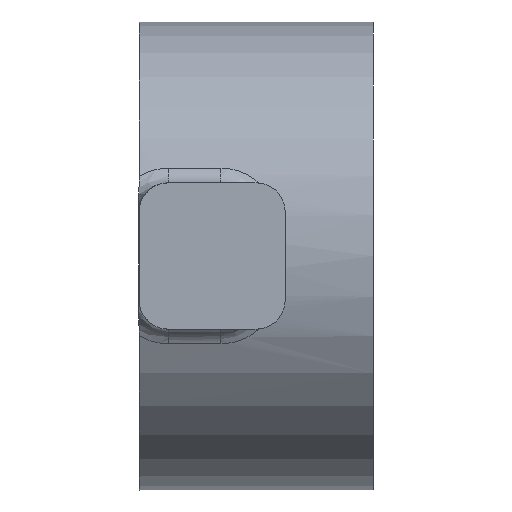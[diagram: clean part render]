
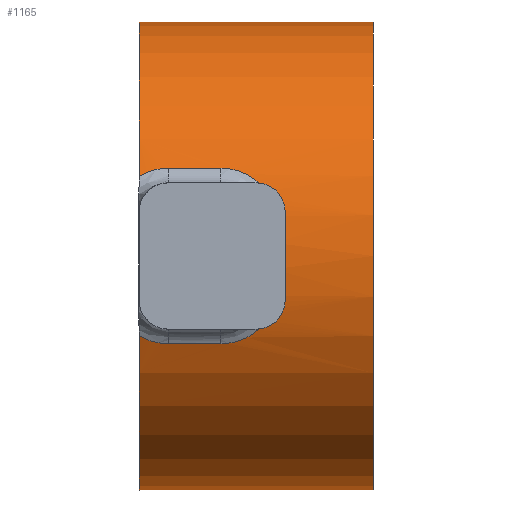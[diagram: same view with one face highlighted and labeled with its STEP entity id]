
A CAD part, front view. The second image highlights one B-rep face of the part: STEP entity #1165.
In plain terms, the highlighted cylindrical face has radius 8 mm (diameter 16 mm), a partial arc.
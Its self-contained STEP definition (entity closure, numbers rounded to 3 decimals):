
#855=CARTESIAN_POINT('Vertex',(8.,0.,8.)) ;
#869=CARTESIAN_POINT('Vertex',(0.,0.,8.)) ;
#872=CARTESIAN_POINT('Line Origine',(4.,0.,8.)) ;
#1046=CARTESIAN_POINT('Line Origine',(4.,0.,-8.)) ;
#1050=CARTESIAN_POINT('Vertex',(0.,0.,-8.)) ;
#1052=CARTESIAN_POINT('Vertex',(8.,0.,-8.)) ;
#1072=CARTESIAN_POINT('Axis2P3D Location',(4.,0.,0.)) ;
#1077=CARTESIAN_POINT('Axis2P3D Location',(8.,0.,0.)) ;
#1082=CARTESIAN_POINT('Axis2P3D Location',(0.,0.,0.)) ;
#1086=CARTESIAN_POINT('Vertex',(0.,-7.522,2.724)) ;
#1090=CARTESIAN_POINT('Control Point',(0.,-7.522,2.724)) ;
#1091=CARTESIAN_POINT('Control Point',(0.294,-7.457,2.903)) ;
#1092=CARTESIAN_POINT('Control Point',(0.647,-7.416,3.)) ;
#1093=CARTESIAN_POINT('Control Point',(1.,-7.416,3.)) ;
#1094=CARTESIAN_POINT('Vertex',(1.,-7.416,3.)) ;
#1097=CARTESIAN_POINT('Line Origine',(4.,-7.416,3.)) ;
#1101=CARTESIAN_POINT('Vertex',(2.8,-7.416,3.)) ;
#1105=CARTESIAN_POINT('Control Point',(2.8,-7.416,3.)) ;
#1106=CARTESIAN_POINT('Control Point',(3.356,-7.416,3.)) ;
#1107=CARTESIAN_POINT('Control Point',(3.91,-7.496,2.801)) ;
#1108=CARTESIAN_POINT('Control Point',(4.351,-7.651,2.428)) ;
#1109=CARTESIAN_POINT('Control Point',(4.6,-7.79,1.902)) ;
#1110=CARTESIAN_POINT('Control Point',(4.6,-7.883,1.364)) ;
#1111=CARTESIAN_POINT('Vertex',(4.6,-7.883,1.364)) ;
#1114=CARTESIAN_POINT('Axis2P3D Location',(4.6,0.,0.)) ;
#1118=CARTESIAN_POINT('Vertex',(4.6,-7.883,-1.364)) ;
#1122=CARTESIAN_POINT('Control Point',(4.6,-7.883,-1.364)) ;
#1123=CARTESIAN_POINT('Control Point',(4.6,-7.79,-1.902)) ;
#1124=CARTESIAN_POINT('Control Point',(4.351,-7.651,-2.428)) ;
#1125=CARTESIAN_POINT('Control Point',(3.91,-7.496,-2.801)) ;
#1126=CARTESIAN_POINT('Control Point',(3.356,-7.416,-3.)) ;
#1127=CARTESIAN_POINT('Control Point',(2.8,-7.416,-3.)) ;
#1128=CARTESIAN_POINT('Vertex',(2.8,-7.416,-3.)) ;
#1131=CARTESIAN_POINT('Line Origine',(4.,-7.416,-3.)) ;
#1135=CARTESIAN_POINT('Vertex',(1.,-7.416,-3.)) ;
#1139=CARTESIAN_POINT('Control Point',(1.,-7.416,-3.)) ;
#1140=CARTESIAN_POINT('Control Point',(0.647,-7.416,-3.)) ;
#1141=CARTESIAN_POINT('Control Point',(0.294,-7.457,-2.903)) ;
#1142=CARTESIAN_POINT('Control Point',(0.,-7.522,-2.724)) ;
#1143=CARTESIAN_POINT('Vertex',(0.,-7.522,-2.724)) ;
#1146=CARTESIAN_POINT('Axis2P3D Location',(0.,0.,0.)) ;
#873=DIRECTION('Vector Direction',(1.,0.,0.)) ;
#1047=DIRECTION('Vector Direction',(1.,0.,0.)) ;
#1073=DIRECTION('Axis2P3D Direction',(1.,0.,-0.)) ;
#1074=DIRECTION('Axis2P3D XDirection',(0.,0.,1.)) ;
#1078=DIRECTION('Axis2P3D Direction',(1.,0.,-0.)) ;
#1083=DIRECTION('Axis2P3D Direction',(1.,0.,-0.)) ;
#1098=DIRECTION('Vector Direction',(1.,0.,0.)) ;
#1115=DIRECTION('Axis2P3D Direction',(1.,0.,-0.)) ;
#1132=DIRECTION('Vector Direction',(1.,0.,0.)) ;
#1147=DIRECTION('Axis2P3D Direction',(1.,0.,-0.)) ;
#1075=AXIS2_PLACEMENT_3D('Cylinder Axis2P3D',#1072,#1073,#1074) ;
#1079=AXIS2_PLACEMENT_3D('Circle Axis2P3D',#1077,#1078,$) ;
#1084=AXIS2_PLACEMENT_3D('Circle Axis2P3D',#1082,#1083,$) ;
#1116=AXIS2_PLACEMENT_3D('Circle Axis2P3D',#1114,#1115,$) ;
#1148=AXIS2_PLACEMENT_3D('Circle Axis2P3D',#1146,#1147,$) ;
#1152=ORIENTED_EDGE('',*,*,#1054,.T.) ;
#1153=ORIENTED_EDGE('',*,*,#1081,.F.) ;
#1154=ORIENTED_EDGE('',*,*,#876,.F.) ;
#1155=ORIENTED_EDGE('',*,*,#1088,.T.) ;
#1156=ORIENTED_EDGE('',*,*,#1096,.F.) ;
#1157=ORIENTED_EDGE('',*,*,#1103,.F.) ;
#1158=ORIENTED_EDGE('',*,*,#1113,.F.) ;
#1159=ORIENTED_EDGE('',*,*,#1120,.F.) ;
#1160=ORIENTED_EDGE('',*,*,#1130,.F.) ;
#1161=ORIENTED_EDGE('',*,*,#1137,.F.) ;
#1162=ORIENTED_EDGE('',*,*,#1145,.F.) ;
#1163=ORIENTED_EDGE('',*,*,#1150,.T.) ;
#874=VECTOR('Line Direction',#873,1.) ;
#1048=VECTOR('Line Direction',#1047,1.) ;
#1099=VECTOR('Line Direction',#1098,1.) ;
#1133=VECTOR('Line Direction',#1132,1.) ;
#1165=ADVANCED_FACE('CLIP D',(#1164),#1076,.T.) ;
#1089=B_SPLINE_CURVE_WITH_KNOTS('',3,(#1090,#1091,#1092,#1093),.UNSPECIFIED.,.F.,.U.,(4,4),(0.,1.505),.UNSPECIFIED.) ;
#1104=B_SPLINE_CURVE_WITH_KNOTS('',5,(#1105,#1106,#1107,#1108,#1109,#1110),.UNSPECIFIED.,.F.,.U.,(6,6),(0.,3.988),.UNSPECIFIED.) ;
#1121=B_SPLINE_CURVE_WITH_KNOTS('',5,(#1122,#1123,#1124,#1125,#1126,#1127),.UNSPECIFIED.,.F.,.U.,(6,6),(0.,3.988),.UNSPECIFIED.) ;
#1138=B_SPLINE_CURVE_WITH_KNOTS('',3,(#1139,#1140,#1141,#1142),.UNSPECIFIED.,.F.,.U.,(4,4),(0.,1.505),.UNSPECIFIED.) ;
#1080=CIRCLE('generated circle',#1079,8.) ;
#1085=CIRCLE('generated circle',#1084,8.) ;
#1117=CIRCLE('generated circle',#1116,8.) ;
#1149=CIRCLE('generated circle',#1148,8.) ;
#1076=CYLINDRICAL_SURFACE('generated cylinder',#1075,8.) ;
#876=EDGE_CURVE('',#870,#856,#875,.T.) ;
#1054=EDGE_CURVE('',#1051,#1053,#1049,.T.) ;
#1081=EDGE_CURVE('',#856,#1053,#1080,.T.) ;
#1088=EDGE_CURVE('',#870,#1087,#1085,.T.) ;
#1096=EDGE_CURVE('',#1095,#1087,#1089,.F.) ;
#1103=EDGE_CURVE('',#1102,#1095,#1100,.F.) ;
#1113=EDGE_CURVE('',#1112,#1102,#1104,.F.) ;
#1120=EDGE_CURVE('',#1119,#1112,#1117,.F.) ;
#1130=EDGE_CURVE('',#1129,#1119,#1121,.F.) ;
#1137=EDGE_CURVE('',#1136,#1129,#1134,.T.) ;
#1145=EDGE_CURVE('',#1144,#1136,#1138,.F.) ;
#1150=EDGE_CURVE('',#1144,#1051,#1149,.T.) ;
#1151=EDGE_LOOP('',(#1152,#1153,#1154,#1155,#1156,#1157,#1158,#1159,#1160,#1161,#1162,#1163)) ;
#1164=FACE_OUTER_BOUND('',#1151,.T.) ;
#875=LINE('Line',#872,#874) ;
#1049=LINE('Line',#1046,#1048) ;
#1100=LINE('Line',#1097,#1099) ;
#1134=LINE('Line',#1131,#1133) ;
#856=VERTEX_POINT('',#855) ;
#870=VERTEX_POINT('',#869) ;
#1051=VERTEX_POINT('',#1050) ;
#1053=VERTEX_POINT('',#1052) ;
#1087=VERTEX_POINT('',#1086) ;
#1095=VERTEX_POINT('',#1094) ;
#1102=VERTEX_POINT('',#1101) ;
#1112=VERTEX_POINT('',#1111) ;
#1119=VERTEX_POINT('',#1118) ;
#1129=VERTEX_POINT('',#1128) ;
#1136=VERTEX_POINT('',#1135) ;
#1144=VERTEX_POINT('',#1143) ;
